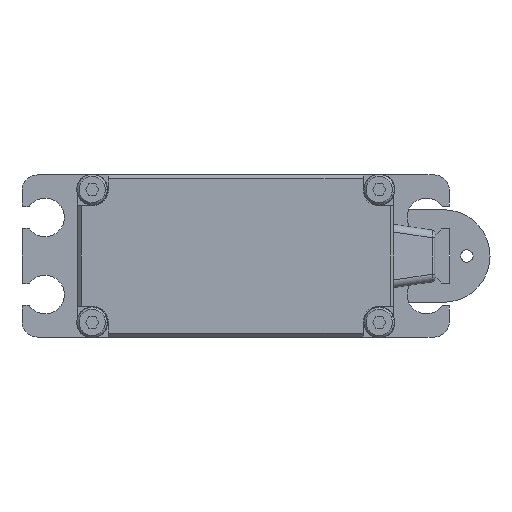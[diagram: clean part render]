
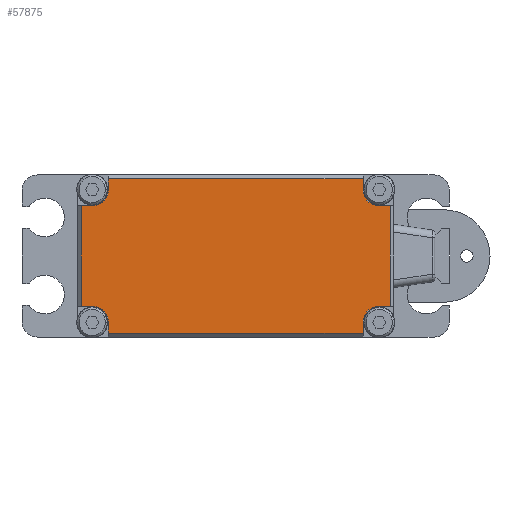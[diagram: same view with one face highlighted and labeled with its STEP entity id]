
A CAD part, front view. The second image highlights one B-rep face of the part: STEP entity #57875.
In plain terms, the highlighted planar face has unit normal (0, -1, 0).
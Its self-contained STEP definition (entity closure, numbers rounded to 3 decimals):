
#54516=DIRECTION('',(0.,0.,1.));
#54517=VECTOR('',#54516,1.394);
#54518=CARTESIAN_POINT('',(16.506,-14.5,-10.));
#54519=LINE('',#54518,#54517);
#54523=DIRECTION('',(1.,0.,0.));
#54524=VECTOR('',#54523,33.012);
#54525=CARTESIAN_POINT('',(-16.506,-14.5,-10.));
#54526=LINE('',#54525,#54524);
#54530=DIRECTION('',(0.,0.,1.));
#54531=VECTOR('',#54530,1.394);
#54532=CARTESIAN_POINT('',(-16.506,-14.5,-10.));
#54533=LINE('',#54532,#54531);
#54537=CARTESIAN_POINT('',(-18.606,-14.5,-8.606));
#54538=DIRECTION('',(0.,1.,0.));
#54539=DIRECTION('',(0.,0.,1.));
#54540=AXIS2_PLACEMENT_3D('',#54537,#54538,#54539);
#54545=DIRECTION('',(1.,0.,0.));
#54546=VECTOR('',#54545,1.394);
#54547=CARTESIAN_POINT('',(-20.,-14.5,-6.506));
#54548=LINE('',#54547,#54546);
#54552=DIRECTION('',(0.,0.,-1.));
#54553=VECTOR('',#54552,13.012);
#54554=CARTESIAN_POINT('',(-20.,-14.5,6.506));
#54555=LINE('',#54554,#54553);
#54559=DIRECTION('',(1.,0.,0.));
#54560=VECTOR('',#54559,1.394);
#54561=CARTESIAN_POINT('',(-20.,-14.5,6.506));
#54562=LINE('',#54561,#54560);
#54566=CARTESIAN_POINT('',(-18.606,-14.5,8.606));
#54567=DIRECTION('',(0.,-1.,0.));
#54568=DIRECTION('',(0.,0.,-1.));
#54569=AXIS2_PLACEMENT_3D('',#54566,#54567,#54568);
#54574=DIRECTION('',(0.,0.,-1.));
#54575=VECTOR('',#54574,1.394);
#54576=CARTESIAN_POINT('',(-16.506,-14.5,10.));
#54577=LINE('',#54576,#54575);
#54581=DIRECTION('',(-1.,0.,0.));
#54582=VECTOR('',#54581,33.012);
#54583=CARTESIAN_POINT('',(16.506,-14.5,10.));
#54584=LINE('',#54583,#54582);
#54588=DIRECTION('',(0.,0.,-1.));
#54589=VECTOR('',#54588,1.394);
#54590=CARTESIAN_POINT('',(16.506,-14.5,10.));
#54591=LINE('',#54590,#54589);
#54595=CARTESIAN_POINT('',(18.606,-14.5,8.606));
#54596=DIRECTION('',(0.,1.,0.));
#54597=DIRECTION('',(0.,0.,-1.));
#54598=AXIS2_PLACEMENT_3D('',#54595,#54596,#54597);
#54603=DIRECTION('',(-1.,0.,0.));
#54604=VECTOR('',#54603,1.394);
#54605=CARTESIAN_POINT('',(20.,-14.5,6.506));
#54606=LINE('',#54605,#54604);
#54610=DIRECTION('',(0.,0.,1.));
#54611=VECTOR('',#54610,13.012);
#54612=CARTESIAN_POINT('',(20.,-14.5,-6.506));
#54613=LINE('',#54612,#54611);
#54617=DIRECTION('',(-1.,0.,0.));
#54618=VECTOR('',#54617,1.394);
#54619=CARTESIAN_POINT('',(20.,-14.5,-6.506));
#54620=LINE('',#54619,#54618);
#54624=CARTESIAN_POINT('',(18.606,-14.5,-8.606));
#54625=DIRECTION('',(0.,-1.,0.));
#54626=DIRECTION('',(0.,0.,1.));
#54627=AXIS2_PLACEMENT_3D('',#54624,#54625,#54626);
#57364=CARTESIAN_POINT('',(-16.506,-14.5,10.));
#57365=CARTESIAN_POINT('',(-16.506,-14.5,8.606));
#57366=VERTEX_POINT('',#57364);
#57367=VERTEX_POINT('',#57365);
#57368=CARTESIAN_POINT('',(-20.,-14.5,6.506));
#57369=CARTESIAN_POINT('',(-18.606,-14.5,6.506));
#57370=VERTEX_POINT('',#57368);
#57371=VERTEX_POINT('',#57369);
#57636=CARTESIAN_POINT('',(16.506,-14.5,8.606));
#57637=VERTEX_POINT('',#57636);
#57638=CARTESIAN_POINT('',(18.606,-14.5,6.506));
#57639=VERTEX_POINT('',#57638);
#57648=CARTESIAN_POINT('',(16.506,-14.5,10.));
#57649=VERTEX_POINT('',#57648);
#57650=CARTESIAN_POINT('',(20.,-14.5,6.506));
#57651=VERTEX_POINT('',#57650);
#57688=CARTESIAN_POINT('',(-16.506,-14.5,-8.606));
#57689=VERTEX_POINT('',#57688);
#57690=CARTESIAN_POINT('',(-18.606,-14.5,-6.506));
#57691=VERTEX_POINT('',#57690);
#57720=CARTESIAN_POINT('',(16.506,-14.5,-8.606));
#57721=VERTEX_POINT('',#57720);
#57722=CARTESIAN_POINT('',(18.606,-14.5,-6.506));
#57723=VERTEX_POINT('',#57722);
#57732=CARTESIAN_POINT('',(-16.506,-14.5,-10.));
#57733=VERTEX_POINT('',#57732);
#57734=CARTESIAN_POINT('',(-20.,-14.5,-6.506));
#57735=VERTEX_POINT('',#57734);
#57752=CARTESIAN_POINT('',(16.506,-14.5,-10.));
#57753=VERTEX_POINT('',#57752);
#57754=CARTESIAN_POINT('',(20.,-14.5,-6.506));
#57755=VERTEX_POINT('',#57754);
#57836=CARTESIAN_POINT('',(0.,-14.5,0.));
#57837=DIRECTION('',(0.,1.,0.));
#57838=DIRECTION('',(1.,0.,0.));
#57839=AXIS2_PLACEMENT_3D('',#57836,#57837,#57838);
#57840=PLANE('',#57839);
#57842=ORIENTED_EDGE('',*,*,#57841,.F.);
#57844=ORIENTED_EDGE('',*,*,#57843,.F.);
#57846=ORIENTED_EDGE('',*,*,#57845,.T.);
#57848=ORIENTED_EDGE('',*,*,#57847,.F.);
#57850=ORIENTED_EDGE('',*,*,#57849,.F.);
#57852=ORIENTED_EDGE('',*,*,#57851,.F.);
#57854=ORIENTED_EDGE('',*,*,#57853,.T.);
#57856=ORIENTED_EDGE('',*,*,#57855,.T.);
#57858=ORIENTED_EDGE('',*,*,#57857,.F.);
#57860=ORIENTED_EDGE('',*,*,#57859,.F.);
#57862=ORIENTED_EDGE('',*,*,#57861,.T.);
#57864=ORIENTED_EDGE('',*,*,#57863,.F.);
#57866=ORIENTED_EDGE('',*,*,#57865,.F.);
#57868=ORIENTED_EDGE('',*,*,#57867,.F.);
#57870=ORIENTED_EDGE('',*,*,#57869,.T.);
#57872=ORIENTED_EDGE('',*,*,#57871,.T.);
#57873=EDGE_LOOP('',(#57842,#57844,#57846,#57848,#57850,#57852,#57854,#57856,
#57858,#57860,#57862,#57864,#57866,#57868,#57870,#57872));
#57874=FACE_OUTER_BOUND('',#57873,.F.);
#57875=ADVANCED_FACE('',(#57874),#57840,.F.);
#54541=CIRCLE('',#54540,2.1);
#54570=CIRCLE('',#54569,2.1);
#54599=CIRCLE('',#54598,2.1);
#54628=CIRCLE('',#54627,2.1);
#57841=EDGE_CURVE('',#57753,#57721,#54519,.T.);
#57843=EDGE_CURVE('',#57733,#57753,#54526,.T.);
#57845=EDGE_CURVE('',#57733,#57689,#54533,.T.);
#57847=EDGE_CURVE('',#57691,#57689,#54541,.T.);
#57849=EDGE_CURVE('',#57735,#57691,#54548,.T.);
#57851=EDGE_CURVE('',#57370,#57735,#54555,.T.);
#57853=EDGE_CURVE('',#57370,#57371,#54562,.T.);
#57855=EDGE_CURVE('',#57371,#57367,#54570,.T.);
#57857=EDGE_CURVE('',#57366,#57367,#54577,.T.);
#57859=EDGE_CURVE('',#57649,#57366,#54584,.T.);
#57861=EDGE_CURVE('',#57649,#57637,#54591,.T.);
#57863=EDGE_CURVE('',#57639,#57637,#54599,.T.);
#57865=EDGE_CURVE('',#57651,#57639,#54606,.T.);
#57867=EDGE_CURVE('',#57755,#57651,#54613,.T.);
#57869=EDGE_CURVE('',#57755,#57723,#54620,.T.);
#57871=EDGE_CURVE('',#57723,#57721,#54628,.T.);
